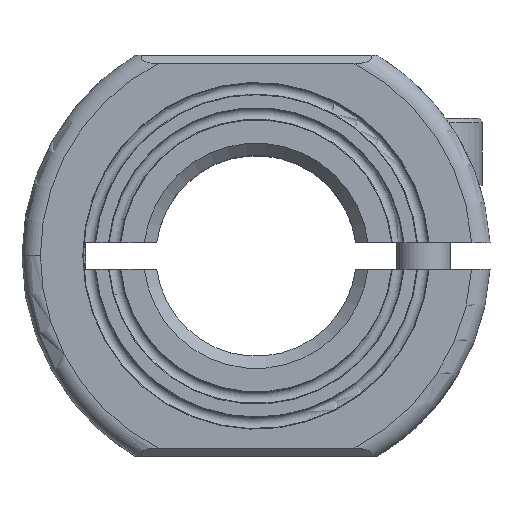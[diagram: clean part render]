
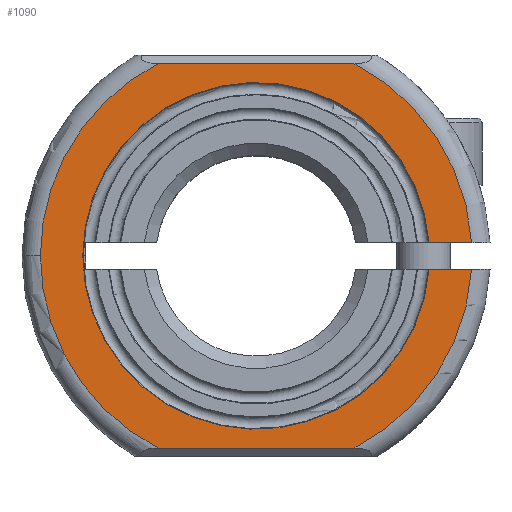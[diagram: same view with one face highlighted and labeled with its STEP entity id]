
A CAD part, top view. The second image highlights one B-rep face of the part: STEP entity #1090.
In plain terms, the highlighted planar face has unit normal (0, 0, 1).
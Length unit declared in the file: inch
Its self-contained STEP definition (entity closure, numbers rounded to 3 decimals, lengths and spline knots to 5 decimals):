
#69 = ORIENTED_EDGE ( 'NONE', *, *, #3023, .F. ) ;
#80 = CARTESIAN_POINT ( 'NONE',  ( -0.2301, -0.45276, 0.43307 ) ) ;
#87 = PLANE ( 'NONE',  #1550 ) ;
#115 = CARTESIAN_POINT ( 'NONE',  ( 0., 0., 0.43307 ) ) ;
#121 = VERTEX_POINT ( 'NONE', #410 ) ;
#204 = DIRECTION ( 'NONE',  ( -1., 0., 0. ) ) ;
#236 = EDGE_CURVE ( 'NONE', #1489, #2811, #1651, .T. ) ;
#347 = CIRCLE ( 'NONE', #2606, 0.50787 ) ;
#359 = ORIENTED_EDGE ( 'NONE', *, *, #481, .T. ) ;
#361 = DIRECTION ( 'NONE',  ( 0., 0., -1. ) ) ;
#363 = ORIENTED_EDGE ( 'NONE', *, *, #2204, .T. ) ;
#386 = VERTEX_POINT ( 'NONE', #1059 ) ;
#404 = VERTEX_POINT ( 'NONE', #2988 ) ;
#410 = CARTESIAN_POINT ( 'NONE',  ( 0.50691, 0.0313, 0.43307 ) ) ;
#427 = LINE ( 'NONE', #2086, #1910 ) ;
#437 = CARTESIAN_POINT ( 'NONE',  ( 0.2301, 0.45276, 0.43307 ) ) ;
#480 = EDGE_CURVE ( 'NONE', #1508, #121, #347, .T. ) ;
#481 = EDGE_CURVE ( 'NONE', #2876, #2447, #427, .T. ) ;
#491 = CARTESIAN_POINT ( 'NONE',  ( 0.40693, -0.0313, 0.43307 ) ) ;
#643 = DIRECTION ( 'NONE',  ( -1., 0., 0. ) ) ;
#779 = VERTEX_POINT ( 'NONE', #2252 ) ;
#815 = EDGE_CURVE ( 'NONE', #1489, #404, #2457, .T. ) ;
#841 = AXIS2_PLACEMENT_3D ( 'NONE', #1163, #1416, #2612 ) ;
#900 = DIRECTION ( 'NONE',  ( 0., 0., -1. ) ) ;
#1013 = VECTOR ( 'NONE', #2043, 39.37008 ) ;
#1051 = CARTESIAN_POINT ( 'NONE',  ( 0., 0.50787, 0.43307 ) ) ;
#1059 = CARTESIAN_POINT ( 'NONE',  ( -0.50787, 0., 0.43307 ) ) ;
#1090 = ADVANCED_FACE ( 'NONE', ( #1751 ), #87, .T. ) ;
#1106 = AXIS2_PLACEMENT_3D ( 'NONE', #1153, #3013, #1377 ) ;
#1153 = CARTESIAN_POINT ( 'NONE',  ( 0., 0., 0.43307 ) ) ;
#1163 = CARTESIAN_POINT ( 'NONE',  ( 0., 0., 0.43307 ) ) ;
#1234 = EDGE_LOOP ( 'NONE', ( #1475, #1662, #1509, #2994, #363, #2468, #69, #359, #1564 ) ) ;
#1267 = LINE ( 'NONE', #2676, #1013 ) ;
#1357 = VECTOR ( 'NONE', #2172, 39.37008 ) ;
#1371 = DIRECTION ( 'NONE',  ( 1., 0., 0. ) ) ;
#1377 = DIRECTION ( 'NONE',  ( 1., 0., 0. ) ) ;
#1408 = DIRECTION ( 'NONE',  ( 1., 0., 0. ) ) ;
#1416 = DIRECTION ( 'NONE',  ( 0., 0., -1. ) ) ;
#1472 = EDGE_CURVE ( 'NONE', #2811, #2447, #2804, .T. ) ;
#1475 = ORIENTED_EDGE ( 'NONE', *, *, #236, .F. ) ;
#1489 = VERTEX_POINT ( 'NONE', #491 ) ;
#1508 = VERTEX_POINT ( 'NONE', #437 ) ;
#1509 = ORIENTED_EDGE ( 'NONE', *, *, #2320, .F. ) ;
#1539 = DIRECTION ( 'NONE',  ( -1., 0., 0. ) ) ;
#1550 = AXIS2_PLACEMENT_3D ( 'NONE', #1051, #2310, #1371 ) ;
#1564 = ORIENTED_EDGE ( 'NONE', *, *, #1472, .F. ) ;
#1599 = EDGE_CURVE ( 'NONE', #386, #779, #2598, .T. ) ;
#1651 = LINE ( 'NONE', #2639, #1357 ) ;
#1660 = AXIS2_PLACEMENT_3D ( 'NONE', #1851, #361, #643 ) ;
#1662 = ORIENTED_EDGE ( 'NONE', *, *, #815, .T. ) ;
#1751 = FACE_OUTER_BOUND ( 'NONE', #1234, .T. ) ;
#1778 = VECTOR ( 'NONE', #1539, 39.37008 ) ;
#1823 = AXIS2_PLACEMENT_3D ( 'NONE', #115, #2042, #1872 ) ;
#1851 = CARTESIAN_POINT ( 'NONE',  ( 0., 0., 0.43307 ) ) ;
#1872 = DIRECTION ( 'NONE',  ( -1., 0., 0. ) ) ;
#1910 = VECTOR ( 'NONE', #1408, 39.37008 ) ;
#2009 = LINE ( 'NONE', #2957, #1778 ) ;
#2042 = DIRECTION ( 'NONE',  ( 0., 0., -1. ) ) ;
#2043 = DIRECTION ( 'NONE',  ( -1., 0., 0. ) ) ;
#2086 = CARTESIAN_POINT ( 'NONE',  ( 0., -0.45276, 0.43307 ) ) ;
#2172 = DIRECTION ( 'NONE',  ( 1., 0., 0. ) ) ;
#2191 = CARTESIAN_POINT ( 'NONE',  ( 0.50691, -0.0313, 0.43307 ) ) ;
#2204 = EDGE_CURVE ( 'NONE', #1508, #779, #1267, .T. ) ;
#2252 = CARTESIAN_POINT ( 'NONE',  ( -0.2301, 0.45276, 0.43307 ) ) ;
#2310 = DIRECTION ( 'NONE',  ( 0., 0., 1. ) ) ;
#2320 = EDGE_CURVE ( 'NONE', #121, #404, #2009, .T. ) ;
#2425 = CARTESIAN_POINT ( 'NONE',  ( 0.2301, -0.45276, 0.43307 ) ) ;
#2447 = VERTEX_POINT ( 'NONE', #2425 ) ;
#2457 = CIRCLE ( 'NONE', #1106, 0.40813 ) ;
#2468 = ORIENTED_EDGE ( 'NONE', *, *, #1599, .F. ) ;
#2598 = CIRCLE ( 'NONE', #841, 0.50787 ) ;
#2606 = AXIS2_PLACEMENT_3D ( 'NONE', #2787, #900, #204 ) ;
#2612 = DIRECTION ( 'NONE',  ( -1., 0., 0. ) ) ;
#2639 = CARTESIAN_POINT ( 'NONE',  ( -0.4015, -0.0313, 0.43307 ) ) ;
#2676 = CARTESIAN_POINT ( 'NONE',  ( 0., 0.45276, 0.43307 ) ) ;
#2787 = CARTESIAN_POINT ( 'NONE',  ( 0., 0., 0.43307 ) ) ;
#2804 = CIRCLE ( 'NONE', #1660, 0.50787 ) ;
#2811 = VERTEX_POINT ( 'NONE', #2191 ) ;
#2876 = VERTEX_POINT ( 'NONE', #80 ) ;
#2957 = CARTESIAN_POINT ( 'NONE',  ( -0.4015, 0.0313, 0.43307 ) ) ;
#2988 = CARTESIAN_POINT ( 'NONE',  ( 0.40693, 0.0313, 0.43307 ) ) ;
#2994 = ORIENTED_EDGE ( 'NONE', *, *, #480, .F. ) ;
#3013 = DIRECTION ( 'NONE',  ( 0., 0., -1. ) ) ;
#3015 = CIRCLE ( 'NONE', #1823, 0.50787 ) ;
#3023 = EDGE_CURVE ( 'NONE', #2876, #386, #3015, .T. ) ;
